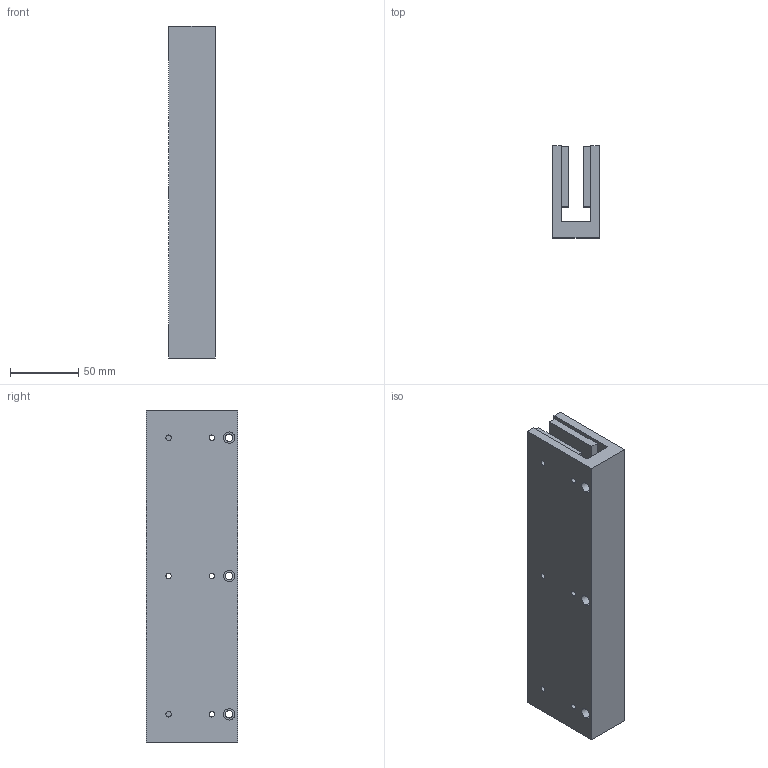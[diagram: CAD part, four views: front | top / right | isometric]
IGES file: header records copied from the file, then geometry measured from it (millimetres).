
Global section: file name: No Iges File Name specified; native system: Autodesk Inventor 2009; preprocessor: AutoDesk Inventor Iges Exporter R2009; author: je17857; date: 20091116.111443; units: inch
Bounding box: 34.29 x 67.31 x 243.84 mm (x, y, z)
Volume: 363679.4 mm3; surface area: 94034 mm2
Topology: 1 solids, 1 shells, 142 faces, 342 edges, 228 vertices
Faces by surface type: plane 94, bspline 48
